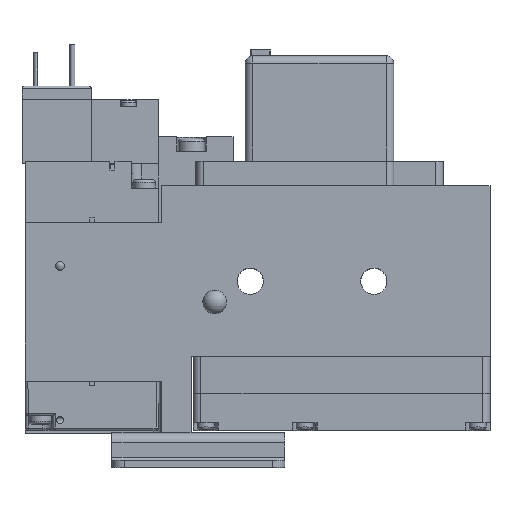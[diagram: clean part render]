
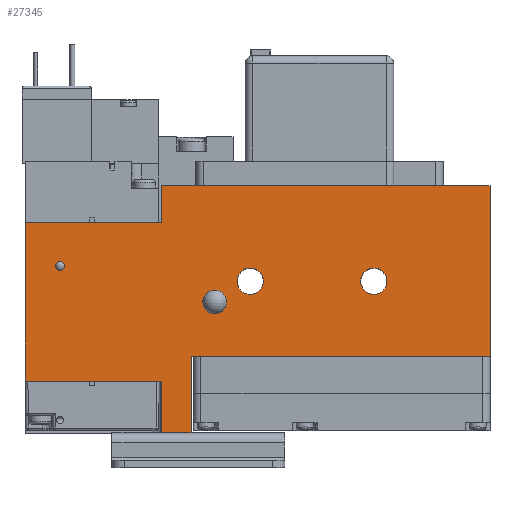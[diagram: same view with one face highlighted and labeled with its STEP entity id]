
A CAD part, top view. The second image highlights one B-rep face of the part: STEP entity #27345.
In plain terms, the highlighted planar face has unit normal (0, 0, 1).
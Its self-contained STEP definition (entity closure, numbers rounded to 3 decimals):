
#72 = DIRECTION ( 'NONE',  ( -1., 0., 0. ) ) ;
#212 = AXIS2_PLACEMENT_3D ( 'NONE', #36230, #15767, #39694 ) ;
#242 = ORIENTED_EDGE ( 'NONE', *, *, #5844, .T. ) ;
#393 = VERTEX_POINT ( 'NONE', #5952 ) ;
#1930 = ORIENTED_EDGE ( 'NONE', *, *, #18226, .F. ) ;
#2072 = VERTEX_POINT ( 'NONE', #27809 ) ;
#2180 = FACE_OUTER_BOUND ( 'NONE', #44153, .T. ) ;
#2308 = CARTESIAN_POINT ( 'NONE',  ( 0., 42.5, 15. ) ) ;
#2422 = CARTESIAN_POINT ( 'NONE',  ( 94., 0., 15. ) ) ;
#2789 = CARTESIAN_POINT ( 'NONE',  ( 0., 0., 15. ) ) ;
#2965 = ORIENTED_EDGE ( 'NONE', *, *, #36478, .T. ) ;
#3686 = VECTOR ( 'NONE', #13962, 1000. ) ;
#3930 = ORIENTED_EDGE ( 'NONE', *, *, #23036, .T. ) ;
#5436 = AXIS2_PLACEMENT_3D ( 'NONE', #31279, #10818, #34701 ) ;
#5844 = EDGE_CURVE ( 'NONE', #36071, #43019, #8687, .T. ) ;
#5952 = CARTESIAN_POINT ( 'NONE',  ( 94., 50., 15. ) ) ;
#5964 = LINE ( 'NONE', #14823, #32183 ) ;
#6530 = CARTESIAN_POINT ( 'NONE',  ( 0., 0., 15. ) ) ;
#6808 = ORIENTED_EDGE ( 'NONE', *, *, #27067, .F. ) ;
#6892 = DIRECTION ( 'NONE',  ( 0., 0., 1. ) ) ;
#6954 = CARTESIAN_POINT ( 'NONE',  ( 33.5, 15.5, 15. ) ) ;
#7065 = AXIS2_PLACEMENT_3D ( 'NONE', #17165, #20619, #72 ) ;
#7220 = CARTESIAN_POINT ( 'NONE',  ( 27.5, 0., 15. ) ) ;
#7466 = EDGE_LOOP ( 'NONE', ( #30240 ) ) ;
#7590 = AXIS2_PLACEMENT_3D ( 'NONE', #39530, #19032, #42976 ) ;
#7983 = CARTESIAN_POINT ( 'NONE',  ( 94., 15.5, 15. ) ) ;
#8518 = ORIENTED_EDGE ( 'NONE', *, *, #12032, .F. ) ;
#8552 = CARTESIAN_POINT ( 'NONE',  ( 73.15, 30.7, 15. ) ) ;
#8687 = LINE ( 'NONE', #6530, #17797 ) ;
#8690 = CARTESIAN_POINT ( 'NONE',  ( 48.15, 30.7, 15. ) ) ;
#8933 = CARTESIAN_POINT ( 'NONE',  ( 0., 10.5, 15. ) ) ;
#9409 = ORIENTED_EDGE ( 'NONE', *, *, #13442, .T. ) ;
#9719 = DIRECTION ( 'NONE',  ( -1., 0., 0. ) ) ;
#10145 = DIRECTION ( 'NONE',  ( 1., 0., 0. ) ) ;
#10268 = CARTESIAN_POINT ( 'NONE',  ( 0., 10.5, 15. ) ) ;
#10426 = DIRECTION ( 'NONE',  ( 0., -1., 0. ) ) ;
#10466 = VECTOR ( 'NONE', #12779, 1000. ) ;
#10809 = EDGE_CURVE ( 'NONE', #24508, #18357, #38290, .T. ) ;
#10818 = DIRECTION ( 'NONE',  ( 0., 0., 1. ) ) ;
#10956 = CARTESIAN_POINT ( 'NONE',  ( 33.5, 0., 15. ) ) ;
#11320 = FACE_BOUND ( 'NONE', #43326, .T. ) ;
#12032 = EDGE_CURVE ( 'NONE', #38822, #43019, #19908, .T. ) ;
#12342 = VERTEX_POINT ( 'NONE', #31695 ) ;
#12385 = FACE_BOUND ( 'NONE', #18647, .T. ) ;
#12452 = CARTESIAN_POINT ( 'NONE',  ( 7.9, 33.8, 15. ) ) ;
#12779 = DIRECTION ( 'NONE',  ( 0., 1., 0. ) ) ;
#12819 = LINE ( 'NONE', #24084, #3686 ) ;
#13442 = EDGE_CURVE ( 'NONE', #2072, #36071, #12819, .T. ) ;
#13962 = DIRECTION ( 'NONE',  ( 0., -1., 0. ) ) ;
#14535 = VERTEX_POINT ( 'NONE', #8690 ) ;
#14823 = CARTESIAN_POINT ( 'NONE',  ( 94., 15.5, 15. ) ) ;
#15069 = VECTOR ( 'NONE', #32847, 1000. ) ;
#15386 = CARTESIAN_POINT ( 'NONE',  ( 0., 42.5, 15. ) ) ;
#15544 = EDGE_CURVE ( 'NONE', #42455, #393, #18461, .T. ) ;
#15767 = DIRECTION ( 'NONE',  ( 0., 0., 1. ) ) ;
#17131 = EDGE_CURVE ( 'NONE', #43935, #43935, #17277, .T. ) ;
#17165 = CARTESIAN_POINT ( 'NONE',  ( 0., 0., 15. ) ) ;
#17277 = CIRCLE ( 'NONE', #212, 2.65 ) ;
#17797 = VECTOR ( 'NONE', #10145, 1000. ) ;
#18226 = EDGE_CURVE ( 'NONE', #14535, #14535, #26633, .T. ) ;
#18259 = DIRECTION ( 'NONE',  ( -1., 0., 0. ) ) ;
#18357 = VERTEX_POINT ( 'NONE', #38146 ) ;
#18461 = LINE ( 'NONE', #2422, #10466 ) ;
#18647 = EDGE_LOOP ( 'NONE', ( #29050 ) ) ;
#18689 = CARTESIAN_POINT ( 'NONE',  ( 27.5, 42.5, 15. ) ) ;
#18898 = AXIS2_PLACEMENT_3D ( 'NONE', #27372, #6892, #30814 ) ;
#19032 = DIRECTION ( 'NONE',  ( 0., 0., 1. ) ) ;
#19275 = ORIENTED_EDGE ( 'NONE', *, *, #24477, .F. ) ;
#19643 = VECTOR ( 'NONE', #9719, 1000. ) ;
#19908 = LINE ( 'NONE', #6954, #28993 ) ;
#20131 = VECTOR ( 'NONE', #42629, 1000. ) ;
#20419 = FACE_BOUND ( 'NONE', #7466, .T. ) ;
#20619 = DIRECTION ( 'NONE',  ( 0., 0., -1. ) ) ;
#21015 = EDGE_CURVE ( 'NONE', #26230, #26230, #35480, .T. ) ;
#23036 = EDGE_CURVE ( 'NONE', #24508, #25392, #40639, .T. ) ;
#24084 = CARTESIAN_POINT ( 'NONE',  ( 27.5, 10.5, 15. ) ) ;
#24477 = EDGE_CURVE ( 'NONE', #18357, #32735, #29204, .T. ) ;
#24508 = VERTEX_POINT ( 'NONE', #15386 ) ;
#25078 = ORIENTED_EDGE ( 'NONE', *, *, #40452, .F. ) ;
#25392 = VERTEX_POINT ( 'NONE', #10268 ) ;
#26221 = DIRECTION ( 'NONE',  ( 1., 0., 0. ) ) ;
#26230 = VERTEX_POINT ( 'NONE', #12452 ) ;
#26633 = CIRCLE ( 'NONE', #18898, 2.65 ) ;
#27067 = EDGE_CURVE ( 'NONE', #2072, #25392, #41315, .T. ) ;
#27345 = ADVANCED_FACE ( 'NONE', ( #38591, #12385, #20419, #11320, #2180 ), #37650, .F. ) ;
#27372 = CARTESIAN_POINT ( 'NONE',  ( 45.5, 30.7, 15. ) ) ;
#27809 = CARTESIAN_POINT ( 'NONE',  ( 27.5, 10.5, 15. ) ) ;
#28718 = LINE ( 'NONE', #43814, #19643 ) ;
#28920 = EDGE_LOOP ( 'NONE', ( #1930 ) ) ;
#28993 = VECTOR ( 'NONE', #10426, 1000. ) ;
#29050 = ORIENTED_EDGE ( 'NONE', *, *, #17131, .F. ) ;
#29204 = LINE ( 'NONE', #18689, #20131 ) ;
#30232 = VECTOR ( 'NONE', #26221, 1000. ) ;
#30240 = ORIENTED_EDGE ( 'NONE', *, *, #38664, .F. ) ;
#30814 = DIRECTION ( 'NONE',  ( 1., 0., 0. ) ) ;
#31053 = ORIENTED_EDGE ( 'NONE', *, *, #21015, .F. ) ;
#31279 = CARTESIAN_POINT ( 'NONE',  ( 38.3, 26.5, 15. ) ) ;
#31695 = CARTESIAN_POINT ( 'NONE',  ( 40.7, 26.5, 15. ) ) ;
#32076 = ORIENTED_EDGE ( 'NONE', *, *, #10809, .F. ) ;
#32183 = VECTOR ( 'NONE', #18259, 1000. ) ;
#32735 = VERTEX_POINT ( 'NONE', #38958 ) ;
#32847 = DIRECTION ( 'NONE',  ( -1., 0., 0. ) ) ;
#33597 = DIRECTION ( 'NONE',  ( 0., -1., 0. ) ) ;
#34701 = DIRECTION ( 'NONE',  ( 1., 0., 0. ) ) ;
#35480 = CIRCLE ( 'NONE', #7590, 0.9 ) ;
#36071 = VERTEX_POINT ( 'NONE', #7220 ) ;
#36230 = CARTESIAN_POINT ( 'NONE',  ( 70.5, 30.7, 15. ) ) ;
#36478 = EDGE_CURVE ( 'NONE', #393, #32735, #28718, .T. ) ;
#37650 = PLANE ( 'NONE',  #7065 ) ;
#38146 = CARTESIAN_POINT ( 'NONE',  ( 27.5, 42.5, 15. ) ) ;
#38186 = CIRCLE ( 'NONE', #5436, 2.4 ) ;
#38290 = LINE ( 'NONE', #2308, #30232 ) ;
#38591 = FACE_BOUND ( 'NONE', #28920, .T. ) ;
#38664 = EDGE_CURVE ( 'NONE', #12342, #12342, #38186, .T. ) ;
#38822 = VERTEX_POINT ( 'NONE', #42200 ) ;
#38958 = CARTESIAN_POINT ( 'NONE',  ( 27.5, 50., 15. ) ) ;
#39530 = CARTESIAN_POINT ( 'NONE',  ( 7., 33.8, 15. ) ) ;
#39566 = VECTOR ( 'NONE', #33597, 1000. ) ;
#39694 = DIRECTION ( 'NONE',  ( 1., 0., 0. ) ) ;
#40452 = EDGE_CURVE ( 'NONE', #42455, #38822, #5964, .T. ) ;
#40639 = LINE ( 'NONE', #2789, #39566 ) ;
#40686 = ORIENTED_EDGE ( 'NONE', *, *, #15544, .T. ) ;
#41315 = LINE ( 'NONE', #8933, #15069 ) ;
#42200 = CARTESIAN_POINT ( 'NONE',  ( 33.5, 15.5, 15. ) ) ;
#42455 = VERTEX_POINT ( 'NONE', #7983 ) ;
#42629 = DIRECTION ( 'NONE',  ( 0., 1., 0. ) ) ;
#42976 = DIRECTION ( 'NONE',  ( 1., 0., 0. ) ) ;
#43019 = VERTEX_POINT ( 'NONE', #10956 ) ;
#43326 = EDGE_LOOP ( 'NONE', ( #31053 ) ) ;
#43814 = CARTESIAN_POINT ( 'NONE',  ( 0., 50., 15. ) ) ;
#43935 = VERTEX_POINT ( 'NONE', #8552 ) ;
#44153 = EDGE_LOOP ( 'NONE', ( #242, #8518, #25078, #40686, #2965, #19275, #32076, #3930, #6808, #9409 ) ) ;
